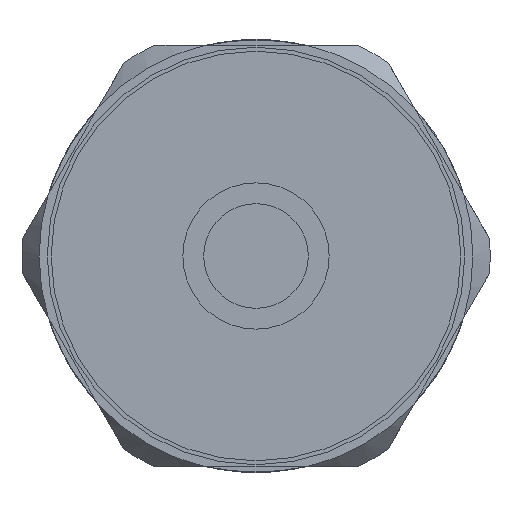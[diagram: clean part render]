
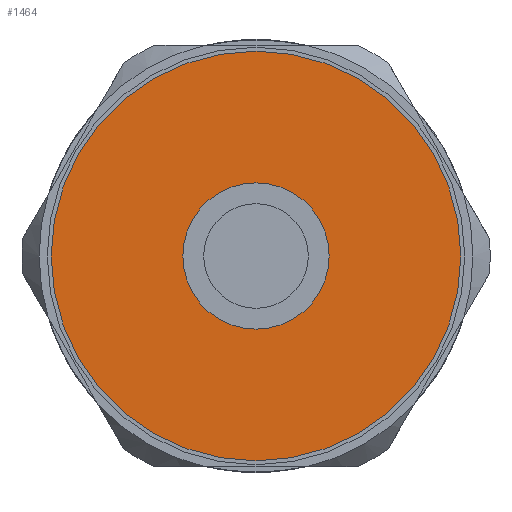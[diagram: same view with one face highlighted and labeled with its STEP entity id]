
A CAD part, left-side view. The second image highlights one B-rep face of the part: STEP entity #1464.
In plain terms, the highlighted planar face has unit normal (-1, 0, 0).
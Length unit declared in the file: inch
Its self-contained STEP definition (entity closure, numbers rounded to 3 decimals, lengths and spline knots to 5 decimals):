
#83=FACE_BOUND('',#247,.T.);
#112=PLANE('',#1603);
#162=FACE_OUTER_BOUND('',#246,.T.);
#246=EDGE_LOOP('',(#1073,#1074));
#247=EDGE_LOOP('',(#1075,#1076));
#446=CIRCLE('',#1548,0.14764);
#447=CIRCLE('',#1549,0.14764);
#476=CIRCLE('',#1604,0.41339);
#477=CIRCLE('',#1605,0.41339);
#559=VERTEX_POINT('',#2203);
#560=VERTEX_POINT('',#2204);
#613=VERTEX_POINT('',#2412);
#614=VERTEX_POINT('',#2413);
#707=EDGE_CURVE('',#559,#560,#446,.T.);
#708=EDGE_CURVE('',#560,#559,#447,.T.);
#788=EDGE_CURVE('',#613,#614,#476,.T.);
#789=EDGE_CURVE('',#614,#613,#477,.T.);
#1073=ORIENTED_EDGE('',*,*,#788,.T.);
#1074=ORIENTED_EDGE('',*,*,#789,.T.);
#1075=ORIENTED_EDGE('',*,*,#707,.T.);
#1076=ORIENTED_EDGE('',*,*,#708,.T.);
#1464=ADVANCED_FACE('',(#162,#83),#112,.T.);
#1548=AXIS2_PLACEMENT_3D('',#2205,#1753,#1754);
#1549=AXIS2_PLACEMENT_3D('',#2206,#1755,#1756);
#1603=AXIS2_PLACEMENT_3D('',#2411,#1890,#1891);
#1604=AXIS2_PLACEMENT_3D('',#2414,#1892,#1893);
#1605=AXIS2_PLACEMENT_3D('',#2415,#1894,#1895);
#1753=DIRECTION('center_axis',(1.,0.,0.));
#1754=DIRECTION('ref_axis',(0.,0.866,-0.5));
#1755=DIRECTION('center_axis',(1.,0.,0.));
#1756=DIRECTION('ref_axis',(0.,0.866,-0.5));
#1890=DIRECTION('center_axis',(-1.,0.,0.));
#1891=DIRECTION('ref_axis',(0.,0.866,-0.5));
#1892=DIRECTION('center_axis',(-1.,0.,0.));
#1893=DIRECTION('ref_axis',(0.,0.866,-0.5));
#1894=DIRECTION('center_axis',(-1.,0.,0.));
#1895=DIRECTION('ref_axis',(0.,0.866,-0.5));
#2203=CARTESIAN_POINT('',(-2.25408,0.22916,-0.41816));
#2204=CARTESIAN_POINT('',(-2.25408,-0.02656,-0.27052));
#2205=CARTESIAN_POINT('Origin',(-2.25408,0.1013,-0.34434));
#2206=CARTESIAN_POINT('Origin',(-2.25408,0.1013,-0.34434));
#2411=CARTESIAN_POINT('Origin',(-2.25408,0.1013,-0.34434));
#2412=CARTESIAN_POINT('',(-2.25408,0.4593,-0.55103));
#2413=CARTESIAN_POINT('',(-2.25408,-0.2567,-0.13765));
#2414=CARTESIAN_POINT('Origin',(-2.25408,0.1013,-0.34434));
#2415=CARTESIAN_POINT('Origin',(-2.25408,0.1013,-0.34434));
